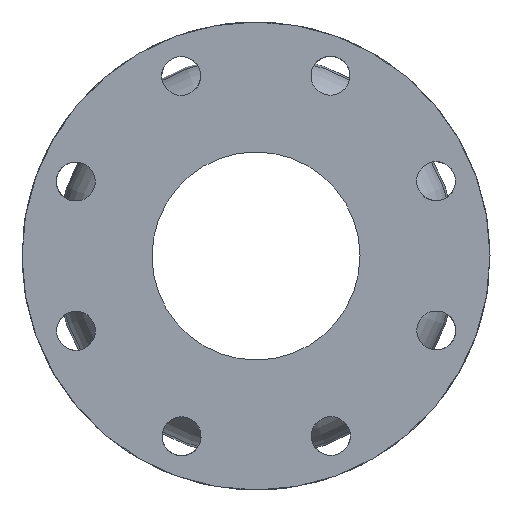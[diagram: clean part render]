
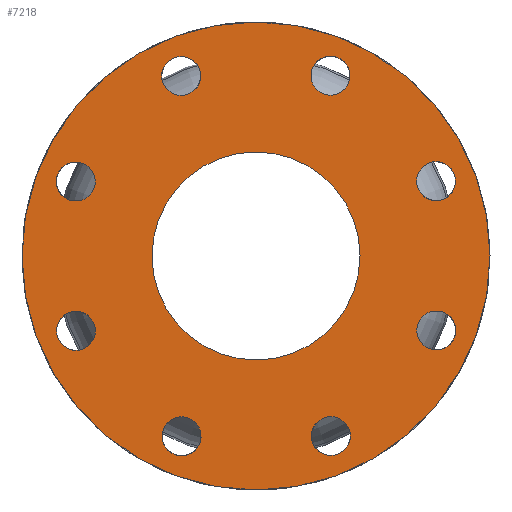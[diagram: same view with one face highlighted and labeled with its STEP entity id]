
A CAD part, left-side view. The second image highlights one B-rep face of the part: STEP entity #7218.
In plain terms, the highlighted planar face has unit normal (-1, 0, 0) as drawn and (1, 0, 0) by its records, which use the part's own axes.
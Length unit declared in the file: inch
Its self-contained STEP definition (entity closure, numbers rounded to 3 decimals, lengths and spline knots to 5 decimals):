
#6567=CARTESIAN_POINT('',(5.,1.1699,3.19938));
#6568=VERTEX_POINT('',#6567);
#6569=CARTESIAN_POINT('',(5.,1.43506,3.46455));
#6570=DIRECTION('',(-1.0,0.0,0.0));
#6571=DIRECTION('',(0.0,0.707,0.707));
#6572=AXIS2_PLACEMENT_3D('',#6569,#6570,#6571);
#6573=CIRCLE('',#6572,0.375);
#6574=EDGE_CURVE('',#6568,#6568,#6573,.T.);
#6595=CARTESIAN_POINT('',(5.,3.08955,1.43506));
#6596=VERTEX_POINT('',#6595);
#6597=CARTESIAN_POINT('',(5.,3.46455,1.43506));
#6598=DIRECTION('',(-1.0,0.0,0.0));
#6599=DIRECTION('',(0.0,1.0,0.0));
#6600=AXIS2_PLACEMENT_3D('',#6597,#6598,#6599);
#6601=CIRCLE('',#6600,0.375);
#6602=EDGE_CURVE('',#6596,#6596,#6601,.T.);
#6623=CARTESIAN_POINT('',(5.,3.19938,-1.1699));
#6624=VERTEX_POINT('',#6623);
#6625=CARTESIAN_POINT('',(5.,3.46455,-1.43506));
#6626=DIRECTION('',(-1.0,0.0,0.0));
#6627=DIRECTION('',(0.0,0.707,-0.707));
#6628=AXIS2_PLACEMENT_3D('',#6625,#6626,#6627);
#6629=CIRCLE('',#6628,0.375);
#6630=EDGE_CURVE('',#6624,#6624,#6629,.T.);
#6651=CARTESIAN_POINT('',(5.,1.43506,-3.08955));
#6652=VERTEX_POINT('',#6651);
#6653=CARTESIAN_POINT('',(5.,1.43506,-3.46455));
#6654=DIRECTION('',(-1.0,0.0,0.0));
#6655=DIRECTION('',(0.0,0.0,-1.0));
#6656=AXIS2_PLACEMENT_3D('',#6653,#6654,#6655);
#6657=CIRCLE('',#6656,0.375);
#6658=EDGE_CURVE('',#6652,#6652,#6657,.T.);
#6679=CARTESIAN_POINT('',(5.,-1.1699,-3.19938));
#6680=VERTEX_POINT('',#6679);
#6681=CARTESIAN_POINT('',(5.,-1.43506,-3.46455));
#6682=DIRECTION('',(-1.0,0.0,0.0));
#6683=DIRECTION('',(0.0,-0.707,-0.707));
#6684=AXIS2_PLACEMENT_3D('',#6681,#6682,#6683);
#6685=CIRCLE('',#6684,0.375);
#6686=EDGE_CURVE('',#6680,#6680,#6685,.T.);
#6707=CARTESIAN_POINT('',(5.,-3.08955,-1.43506));
#6708=VERTEX_POINT('',#6707);
#6709=CARTESIAN_POINT('',(5.,-3.46455,-1.43506));
#6710=DIRECTION('',(-1.0,0.0,0.0));
#6711=DIRECTION('',(0.0,-1.0,0.0));
#6712=AXIS2_PLACEMENT_3D('',#6709,#6710,#6711);
#6713=CIRCLE('',#6712,0.375);
#6714=EDGE_CURVE('',#6708,#6708,#6713,.T.);
#6735=CARTESIAN_POINT('',(5.,-3.19938,1.1699));
#6736=VERTEX_POINT('',#6735);
#6737=CARTESIAN_POINT('',(5.,-3.46455,1.43506));
#6738=DIRECTION('',(-1.0,0.0,0.0));
#6739=DIRECTION('',(0.0,-0.707,0.707));
#6740=AXIS2_PLACEMENT_3D('',#6737,#6738,#6739);
#6741=CIRCLE('',#6740,0.375);
#6742=EDGE_CURVE('',#6736,#6736,#6741,.T.);
#6763=CARTESIAN_POINT('',(5.,-1.43506,3.08955));
#6764=VERTEX_POINT('',#6763);
#6765=CARTESIAN_POINT('',(5.,-1.43506,3.46455));
#6766=DIRECTION('',(-1.0,0.0,0.0));
#6767=DIRECTION('',(0.0,0.0,1.0));
#6768=AXIS2_PLACEMENT_3D('',#6765,#6766,#6767);
#6769=CIRCLE('',#6768,0.375);
#6770=EDGE_CURVE('',#6764,#6764,#6769,.T.);
#7160=CARTESIAN_POINT('',(5.,4.5,0.0));
#7161=VERTEX_POINT('',#7160);
#7162=CARTESIAN_POINT('',(5.,0.0,0.0));
#7163=DIRECTION('',(1.0,0.0,0.0));
#7164=DIRECTION('',(0.0,1.0,0.0));
#7165=AXIS2_PLACEMENT_3D('',#7162,#7163,#7164);
#7166=CIRCLE('',#7165,4.5);
#7167=EDGE_CURVE('',#7161,#7161,#7166,.T.);
#7175=CARTESIAN_POINT('',(5.,3.1875,0.0));
#7176=DIRECTION('',(1.0,0.0,0.0));
#7177=DIRECTION('',(0.0,0.0,-1.0));
#7178=AXIS2_PLACEMENT_3D('',#7175,#7176,#7177);
#7179=PLANE('',#7178);
#7180=ORIENTED_EDGE('',*,*,#7167,.T.);
#7181=EDGE_LOOP('',(#7180));
#7182=FACE_OUTER_BOUND('',#7181,.T.);
#7183=ORIENTED_EDGE('',*,*,#6574,.T.);
#7184=EDGE_LOOP('',(#7183));
#7185=FACE_BOUND('',#7184,.T.);
#7186=ORIENTED_EDGE('',*,*,#6602,.T.);
#7187=EDGE_LOOP('',(#7186));
#7188=FACE_BOUND('',#7187,.T.);
#7189=ORIENTED_EDGE('',*,*,#6630,.T.);
#7190=EDGE_LOOP('',(#7189));
#7191=FACE_BOUND('',#7190,.T.);
#7192=ORIENTED_EDGE('',*,*,#6658,.T.);
#7193=EDGE_LOOP('',(#7192));
#7194=FACE_BOUND('',#7193,.T.);
#7195=ORIENTED_EDGE('',*,*,#6686,.T.);
#7196=EDGE_LOOP('',(#7195));
#7197=FACE_BOUND('',#7196,.T.);
#7198=ORIENTED_EDGE('',*,*,#6714,.T.);
#7199=EDGE_LOOP('',(#7198));
#7200=FACE_BOUND('',#7199,.T.);
#7201=ORIENTED_EDGE('',*,*,#6742,.T.);
#7202=EDGE_LOOP('',(#7201));
#7203=FACE_BOUND('',#7202,.T.);
#7204=ORIENTED_EDGE('',*,*,#6770,.T.);
#7205=EDGE_LOOP('',(#7204));
#7206=FACE_BOUND('',#7205,.T.);
#7207=CARTESIAN_POINT('',(5.,2.0,0.0));
#7208=VERTEX_POINT('',#7207);
#7209=CARTESIAN_POINT('',(5.,0.0,0.0));
#7210=DIRECTION('',(1.0,0.0,0.0));
#7211=DIRECTION('',(0.0,1.0,0.0));
#7212=AXIS2_PLACEMENT_3D('',#7209,#7210,#7211);
#7213=CIRCLE('',#7212,2.0);
#7214=EDGE_CURVE('',#7208,#7208,#7213,.T.);
#7215=ORIENTED_EDGE('',*,*,#7214,.F.);
#7216=EDGE_LOOP('',(#7215));
#7217=FACE_BOUND('',#7216,.T.);
#7218=ADVANCED_FACE('',(#7182,#7185,#7188,#7191,#7194,#7197,#7200,#7203,#7206,#7217),#7179,.T.);
